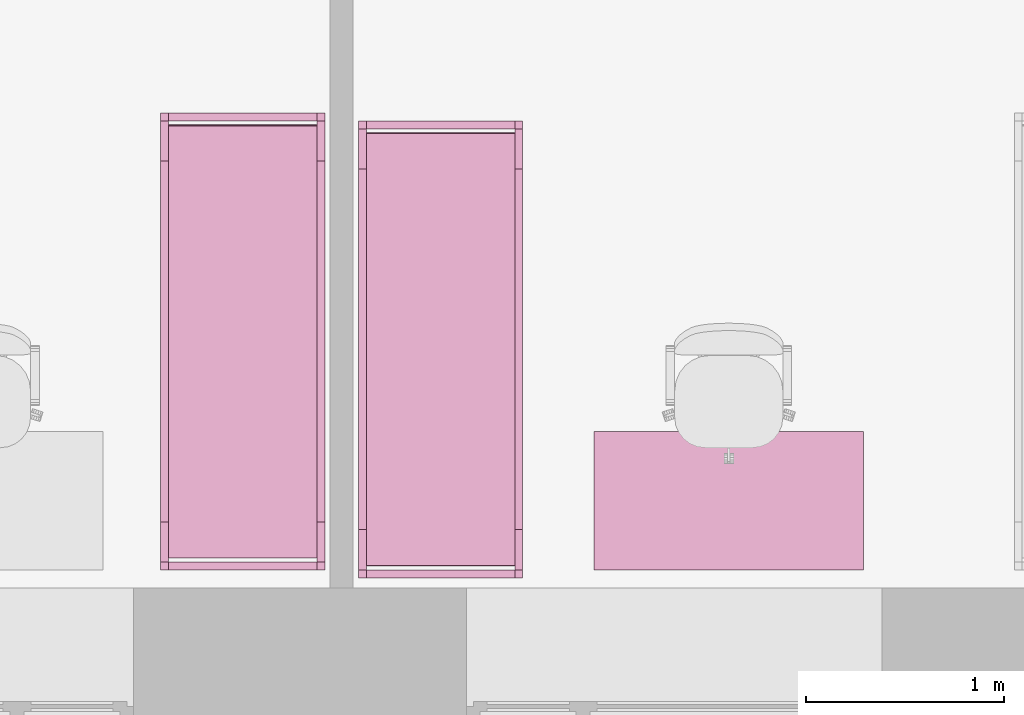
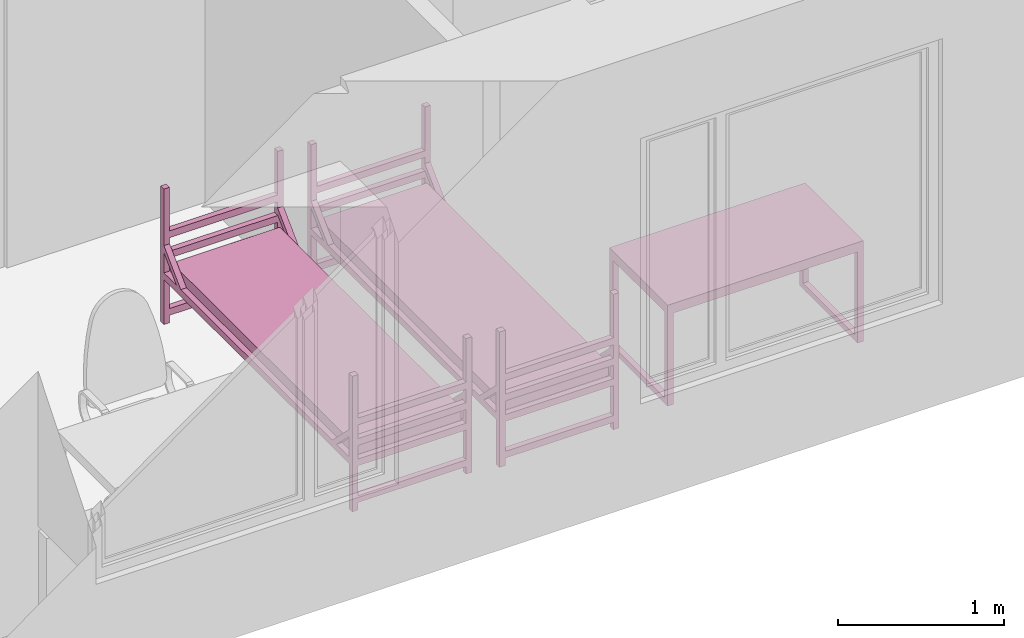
# One storey, part 26 of 48: 3 furnishings.
"""IFC2X3 building model written with IfcOpenShell, lengths in millimetres."""

from ifc_helpers import new_model, entity, si_unit, converted_unit, derived_unit, direction, frame, frame_2d, origin, origin_2d_with_axis, place, context, subcontext, project, spatial, polyline, circle_curve, parameter, trimmed, segment, composite_curve, rectangle, outline, extrude, faceted_brep, source, transform, mapped, material, material_list, type_object, type_shapes, element, save


model = new_model("IFC2X3")

# Units and contexts
model_context = context("Model", 3, precision=0.01, world=origin(), true_north=direction((6.12303176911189e-17, 1.0)))
body_context = subcontext(model_context, "Body", "Model", "MODEL_VIEW")
ifc_project = project(units=[si_unit("LENGTHUNIT", "METRE", prefix="MILLI"), si_unit("AREAUNIT", "SQUARE_METRE"), si_unit("VOLUMEUNIT", "CUBIC_METRE"), converted_unit("PLANEANGLEUNIT", "DEGREE", entity("IfcRatioMeasure", 0.0174532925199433), si_unit("PLANEANGLEUNIT", "RADIAN"), dimensions=[0, 0, 0, 0, 0, 0, 0]), si_unit("MASSUNIT", "GRAM", prefix="KILO"), derived_unit("MASSDENSITYUNIT", [(si_unit("MASSUNIT", "GRAM", prefix="KILO"), 1), (si_unit("LENGTHUNIT", "METRE"), -3)]), si_unit("TIMEUNIT", "SECOND"), si_unit("FREQUENCYUNIT", "HERTZ"), si_unit("THERMODYNAMICTEMPERATUREUNIT", "DEGREE_CELSIUS"), derived_unit("THERMALTRANSMITTANCEUNIT", [(si_unit("MASSUNIT", "GRAM", prefix="KILO"), 1), (si_unit("THERMODYNAMICTEMPERATUREUNIT", "KELVIN"), -1), (si_unit("TIMEUNIT", "SECOND"), -3)]), derived_unit("VOLUMETRICFLOWRATEUNIT", [(si_unit("LENGTHUNIT", "METRE"), 3), (si_unit("TIMEUNIT", "SECOND"), -1)]), si_unit("ELECTRICCURRENTUNIT", "AMPERE"), si_unit("ELECTRICVOLTAGEUNIT", "VOLT"), si_unit("POWERUNIT", "WATT"), si_unit("FORCEUNIT", "NEWTON", prefix="KILO"), si_unit("ILLUMINANCEUNIT", "LUX"), si_unit("LUMINOUSFLUXUNIT", "LUMEN"), si_unit("LUMINOUSINTENSITYUNIT", "CANDELA"), derived_unit("USERDEFINED", [(si_unit("MASSUNIT", "GRAM", prefix="KILO"), -1), (si_unit("LENGTHUNIT", "METRE"), -2), (si_unit("TIMEUNIT", "SECOND"), 3), (si_unit("LUMINOUSFLUXUNIT", "LUMEN"), 1)]), derived_unit("LINEARVELOCITYUNIT", [(si_unit("LENGTHUNIT", "METRE"), 1), (si_unit("TIMEUNIT", "SECOND"), -1)]), si_unit("PRESSUREUNIT", "PASCAL"), derived_unit("USERDEFINED", [(si_unit("LENGTHUNIT", "METRE"), -2), (si_unit("MASSUNIT", "GRAM", prefix="KILO"), 1), (si_unit("TIMEUNIT", "SECOND"), -2)]), derived_unit("LINEARFORCEUNIT", [(si_unit("MASSUNIT", "GRAM", prefix="KILO"), 1), (si_unit("LENGTHUNIT", "METRE"), 1), (si_unit("TIMEUNIT", "SECOND"), -2), (si_unit("LENGTHUNIT", "METRE"), -1)]), derived_unit("PLANARFORCEUNIT", [(si_unit("MASSUNIT", "GRAM", prefix="KILO"), 1), (si_unit("LENGTHUNIT", "METRE"), 1), (si_unit("TIMEUNIT", "SECOND"), -2), (si_unit("LENGTHUNIT", "METRE"), -2)])], contexts=[model_context])

# Site, building, storey, space
site_placement = place(None, origin())
site = spatial("IfcSite", under=ifc_project, at=site_placement, Name="Default", CompositionType="ELEMENT")
building_placement = place(site_placement, origin())
building = spatial("IfcBuilding", under=site, at=building_placement, Name="SMA ARH", CompositionType="ELEMENT")
storey_placement = place(building_placement, frame((0.0, 0.0, 3300.0)))
storey = spatial("IfcBuildingStorey", under=building, at=storey_placement, Name="2 Korrus", CompositionType="ELEMENT", Elevation=3299.99999999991)
space_1_placement = place(storey_placement, origin())
space_1 = spatial("IfcSpace", under=storey, at=space_1_placement, Name="2-12", CompositionType="ELEMENT", InteriorOrExteriorSpace="INTERNAL")

# Furnishings
ifc_material_1 = material(Name="Madrats")
furniture_type_1 = type_object("IfcFurnitureType", Name="Kasarmu voodi ühekordne 2308x830:Kasarmu voodi ühekordne 2308x830", material=ifc_material_1)
shared_shape_1 = source(origin(), body_context, "Body", "SweptSolid", [
    extrude(rectangle(XDim=39.9999999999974, YDim=750.000000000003, at=frame_2d((-1.35003119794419e-13, -2.8421709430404e-14), x_axis=(1.0, 0.0))), frame((1.68638457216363, -1226.7969571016, 55.0), z_axis=(0.0, 0.0, 1.0), x_axis=(0.0, -1.0, 0.0)), (0.0, 0.0, 1.0), 49.9999999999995),
    extrude(rectangle(XDim=39.9999999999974, YDim=750.000000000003, at=frame_2d((-1.35003119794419e-13, -2.8421709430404e-14), x_axis=(1.0, 0.0))), frame((1.68638457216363, -1226.7969571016, 325.0), z_axis=(0.0, 0.0, 1.0), x_axis=(0.0, -1.0, 0.0)), (0.0, 0.0, 1.0), 49.9999999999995),
    extrude(rectangle(XDim=39.9999999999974, YDim=750.000000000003, at=frame_2d((-1.35003119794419e-13, -2.8421709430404e-14), x_axis=(1.0, 0.0))), frame((1.68638457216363, -1226.7969571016, 475.0), z_axis=(0.0, 0.0, 1.0), x_axis=(0.0, -1.0, 0.0)), (0.0, 0.0, 1.0), 49.9999999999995),
    extrude(rectangle(XDim=39.9999999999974, YDim=750.000000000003, at=frame_2d((-1.35003119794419e-13, -2.8421709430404e-14), x_axis=(1.0, 0.0))), frame((1.68638457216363, -1226.7969571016, 625.0), z_axis=(0.0, 0.0, 1.0), x_axis=(0.0, -1.0, 0.0)), (0.0, 0.0, 1.0), 50.0000000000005),
    extrude(rectangle(XDim=39.9999999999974, YDim=750.000000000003, at=frame_2d((1.35003119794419e-13, -2.8421709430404e-14), x_axis=(1.0, 0.0))), frame((1.68638457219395, 1041.2030428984, 55.0), z_axis=(0.0, 0.0, 1.0), x_axis=(0.0, -1.0, 0.0)), (0.0, 0.0, 1.0), 50.0000000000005),
    extrude(rectangle(XDim=39.9999999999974, YDim=750.000000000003, at=frame_2d((1.35003119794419e-13, -2.8421709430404e-14), x_axis=(1.0, 0.0))), frame((1.68638457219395, 1041.2030428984, 325.0), z_axis=(0.0, 0.0, 1.0), x_axis=(0.0, -1.0, 0.0)), (0.0, 0.0, 1.0), 50.0000000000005),
    extrude(rectangle(XDim=39.9999999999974, YDim=750.000000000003, at=frame_2d((1.35003119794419e-13, -2.8421709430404e-14), x_axis=(1.0, 0.0))), frame((1.68638457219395, 1041.2030428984, 475.0), z_axis=(0.0, 0.0, 1.0), x_axis=(0.0, -1.0, 0.0)), (0.0, 0.0, 1.0), 50.0000000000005),
    extrude(rectangle(XDim=39.9999999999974, YDim=750.000000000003, at=frame_2d((1.35003119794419e-13, -2.8421709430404e-14), x_axis=(1.0, 0.0))), frame((1.68638457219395, 1041.2030428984, 625.0), z_axis=(0.0, 0.0, 1.0), x_axis=(0.0, -1.0, 0.0)), (0.0, 0.0, 1.0), 49.9999999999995),
    extrude(outline(composite_curve([segment(trimmed(circle_curve(frame_2d((1085.0, -40.0), x_axis=(1.0, 0.0)), 10.0), [parameter(270.0)], [parameter(0.0)], True, "PARAMETER"), True, "CONTINUOUS"), segment(polyline([(1095.0, -40.0), (1095.0, 40.0)]), True, "CONTINUOUS"), segment(trimmed(circle_curve(frame_2d((1085.0, 40.0), x_axis=(1.0, 0.0)), 10.0), [parameter(0.0)], [parameter(90.0000000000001)], True, "PARAMETER"), True, "CONTINUOUS"), segment(polyline([(1085.0, 50.0), (-1085.0, 50.0)]), True, "CONTINUOUS"), segment(trimmed(circle_curve(frame_2d((-1085.0, 40.0), x_axis=(1.0, 0.0)), 10.0), [parameter(90.0000000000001)], [parameter(180.0)], True, "PARAMETER"), True, "CONTINUOUS"), segment(polyline([(-1095.0, 40.0), (-1095.0, -40.0)]), True, "CONTINUOUS"), segment(trimmed(circle_curve(frame_2d((-1085.0, -40.0), x_axis=(1.0, 0.0)), 10.0), [parameter(180.0)], [parameter(270.0)], True, "PARAMETER"), True, "CONTINUOUS"), segment(polyline([(-1085.0, -50.0), (1085.0, -50.0)]), True, "CONTINUOUS")], self_intersect=False)), frame((-373.313615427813, -92.7969571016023, 405.0), z_axis=(1.0, 0.0, 0.0), x_axis=(0.0, -1.0, 0.0)), (0.0, 0.0, 1.0), 750.000000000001),
    extrude(outline(polyline([(-1114.0, -100.0), (1114.0, -100.0), (1114.0, -50.0), (961.59199141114, -50.0), (1114.0, 100.0), (1114.0, 150.0), (910.789321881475, -50.0), (-910.789321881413, -50.0), (-1114.0, 150.0), (-1114.0, 100.0), (-961.591991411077, -50.0), (-1114.0, -50.0), (-1114.0, -100.0)])), frame((-413.313615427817, -92.7969571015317, 430.0), z_axis=(1.0, 0.0, 0.0), x_axis=(0.0, 1.0, 0.0)), (0.0, 0.0, 1.0), 39.9999999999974),
    extrude(outline(polyline([(-1114.0, -100.0), (1114.0, -100.0), (1114.0, -50.0), (961.591991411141, -50.0), (1114.0, 100.0), (1114.0, 150.0), (910.789321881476, -50.0), (-910.789321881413, -50.0), (-1114.0, 150.0), (-1114.0, 100.0), (-961.591991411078, -50.0), (-1114.0, -50.0), (-1114.0, -100.0)])), frame((376.686384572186, -92.796957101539, 430.0), z_axis=(1.0, 0.0, 0.0), x_axis=(0.0, 1.0, 0.0)), (0.0, 0.0, 1.0), 39.9999999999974),
    extrude(rectangle(XDim=39.9999999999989, YDim=39.9999999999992, at=frame_2d((-6.75015598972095e-14, 0.0), x_axis=(1.0, 0.0))), frame((396.686384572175, -1226.79695710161, 0.0), z_axis=(0.0, 0.0, 1.0), x_axis=(0.0, 1.0, 0.0)), (0.0, 0.0, 1.0), 995.0),
    extrude(rectangle(XDim=39.9999999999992, YDim=39.9999999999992, at=frame_2d((-1.35003119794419e-13, 0.0), x_axis=(1.0, 0.0))), frame((396.686384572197, 1041.20304289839, 0.0), z_axis=(0.0, 0.0, 1.0), x_axis=(0.0, 1.0, 0.0)), (0.0, 0.0, 1.0), 995.0),
    extrude(rectangle(XDim=40.0000000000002, YDim=39.9999999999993, at=frame_2d((-1.35003119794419e-13, 0.0), x_axis=(1.0, 0.0))), frame((-393.313615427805, 1041.2030428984, 0.0), z_axis=(0.0, 0.0, 1.0), x_axis=(0.0, 1.0, 0.0)), (0.0, 0.0, 1.0), 995.0),
    extrude(rectangle(XDim=39.9999999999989, YDim=39.9999999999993, at=frame_2d((-6.75015598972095e-14, 0.0), x_axis=(1.0, 0.0))), frame((-393.313615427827, -1226.7969571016, 0.0), z_axis=(0.0, 0.0, 1.0), x_axis=(0.0, 1.0, 0.0)), (0.0, 0.0, 1.0), 995.0),
])
type_shapes(furniture_type_1, [shared_shape_1])
furnishing_1_placement = place(space_1_placement, frame((12427.8136154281, 1296.79695710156, 0.0)))
element("IfcFurnishingElement", 1, at=furnishing_1_placement, inside=space_1, type_object=furniture_type_1, material=ifc_material_1, Name="Kasarmu voodi ühekordne 2308x830:Kasarmu voodi ühekordne 2308x830", ObjectType="Kasarmu voodi ühekordne 2308x830:Kasarmu voodi ühekordne 2308x830", context=body_context, shape_type="MappedRepresentation", body=[
    mapped(shared_shape_1, transform((0.0, 0.0, 0.0), scale=1.0)),
])
ifc_material_2 = material(Name="<Unnamed>")
ifc_material_list = material_list([ifc_material_2, ifc_material_2])
furniture_type_2 = type_object("IfcFurnitureType", Name="kirjutuslaud 1360x700mm:kirjutuslaud 1360x700mm", material=ifc_material_list)
shared_shape_2 = source(origin(), body_context, "Body", "Brep", [
    faceted_brep([(680.0, -350.0, 720.0), (680.0, 350.0, 720.0), (680.0, 350.0, 750.0), (680.0, -350.0, 750.0), (-680.0, -350.0, 720.0), (-680.0, -350.0, 750.0), (-680.0, 350.0, 750.0), (-680.0, 350.0, 720.0)], [[[0, 1, 2, 3]], [[4, 5, 6, 7]], [[1, 0, 4, 7]], [[2, 1, 7, 6]], [[3, 2, 6, 5]], [[0, 3, 5, 4]]]),
    faceted_brep([(-640.0, -310.0, 680.0), (-640.0, 310.0, 680.0), (-640.0, 310.0, 720.0), (-640.0, -310.0, 720.0), (-680.0, -350.0, 720.0), (-680.0, 350.0, 720.0), (-680.0, 350.0, 10.0), (-680.0, -350.0, 10.0), (-680.0, 310.0, 680.0), (-680.0, -310.0, 680.0), (-680.0, -310.0, 50.0), (-680.0, 310.0, 50.0), (-640.0, -350.0, 10.0), (-640.0, -350.0, 680.0), (640.0, -350.0, 680.0), (640.0, -350.0, 10.0), (680.0, -350.0, 10.0), (680.0, -350.0, 720.0), (-640.0, 350.0, 10.0), (680.0, 350.0, 720.0), (680.0, 350.0, 10.0), (640.0, 350.0, 10.0), (640.0, 350.0, 680.0), (-640.0, 350.0, 680.0), (640.0, 310.0, 720.0), (640.0, -310.0, 720.0), (-640.0, 310.0, 50.0), (-640.0, -310.0, 50.0), (640.0, -310.0, 680.0), (640.0, 310.0, 680.0), (680.0, 310.0, 680.0), (680.0, 310.0, 50.0), (680.0, -310.0, 50.0), (680.0, -310.0, 680.0), (640.0, -310.0, 50.0), (640.0, 310.0, 50.0)], [[[0, 1, 2, 3]], [[4, 5, 6, 7], [8, 9, 10, 11]], [[4, 7, 12, 13, 14, 15, 16, 17]], [[18, 12, 7, 6]], [[6, 5, 19, 20, 21, 22, 23, 18]], [[19, 5, 4, 17], [2, 24, 25, 3]], [[26, 1, 8, 11]], [[27, 26, 11, 10]], [[0, 27, 10, 9]], [[1, 0, 9, 8]], [[14, 13, 0, 28]], [[24, 2, 1, 29]], [[3, 25, 28, 0]], [[17, 16, 20, 19], [30, 31, 32, 33]], [[21, 15, 14, 28, 34, 35, 29, 22]], [[20, 16, 15, 21]], [[31, 30, 29, 35]], [[32, 31, 35, 34]], [[33, 32, 34, 28]], [[30, 33, 28, 29]], [[29, 28, 25, 24]], [[29, 1, 23, 22]], [[12, 18, 23, 1, 26, 27, 0, 13]]]),
    faceted_brep([(-663.729456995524, -270.466136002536, 0.0), (-659.847171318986, -269.955023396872, 0.0), (-655.964885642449, -270.466136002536, 0.0), (-652.347171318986, -271.964642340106, 0.0), (-649.240569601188, -274.348421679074, 0.0), (-646.85679026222, -277.455023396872, 0.0), (-645.35828392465, -281.072737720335, 0.0), (-644.847171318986, -284.955023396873, 0.0), (-645.35828392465, -288.83730907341, 0.0), (-646.85679026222, -292.455023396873, 0.0), (-649.240569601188, -295.561625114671, 0.0), (-652.347171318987, -297.945404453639, 0.0), (-655.964885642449, -299.443910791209, 0.0), (-659.847171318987, -299.955023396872, 0.0), (-663.729456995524, -299.443910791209, 0.0), (-667.347171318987, -297.945404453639, 0.0), (-670.453773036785, -295.561625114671, 0.0), (-672.837552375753, -292.455023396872, 0.0), (-674.336058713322, -288.83730907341, 0.0), (-674.847171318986, -284.955023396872, 0.0), (-674.336058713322, -281.072737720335, 0.0), (-672.837552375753, -277.455023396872, 0.0), (-670.453773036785, -274.348421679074, 0.0), (-667.347171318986, -271.964642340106, 0.0), (-655.964885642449, -299.443910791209, 10.0), (-652.347171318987, -297.945404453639, 10.0), (-649.240569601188, -295.561625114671, 10.0), (-646.85679026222, -292.455023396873, 10.0), (-645.35828392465, -288.83730907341, 10.0), (-644.847171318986, -284.955023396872, 10.0), (-645.35828392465, -281.072737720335, 10.0), (-646.85679026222, -277.455023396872, 10.0), (-649.240569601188, -274.348421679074, 10.0), (-652.347171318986, -271.964642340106, 10.0), (-655.964885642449, -270.466136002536, 10.0), (-659.847171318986, -269.955023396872, 10.0), (-663.729456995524, -270.466136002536, 10.0), (-667.347171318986, -271.964642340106, 10.0), (-670.453773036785, -274.348421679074, 10.0), (-672.837552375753, -277.455023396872, 10.0), (-674.336058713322, -281.072737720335, 10.0), (-674.847171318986, -284.955023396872, 10.0), (-674.336058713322, -288.83730907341, 10.0), (-672.837552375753, -292.455023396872, 10.0), (-670.453773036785, -295.561625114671, 10.0), (-667.347171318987, -297.945404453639, 10.0), (-663.729456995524, -299.443910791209, 10.0), (-659.847171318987, -299.955023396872, 10.0)], [[[0, 1, 2, 3, 4, 5, 6, 7, 8, 9, 10, 11, 12, 13, 14, 15, 16, 17, 18, 19, 20, 21, 22, 23]], [[24, 25, 26, 27, 28, 29, 30, 31, 32, 33, 34, 35, 36, 37, 38, 39, 40, 41, 42, 43, 44, 45, 46, 47]], [[18, 42, 41, 19]], [[17, 43, 42, 18]], [[45, 44, 16, 15]], [[17, 16, 44, 43]], [[46, 45, 15, 14]], [[47, 46, 14, 13]], [[12, 24, 47, 13]], [[11, 25, 24, 12]], [[27, 26, 10, 9]], [[11, 10, 26, 25]], [[28, 27, 9, 8]], [[29, 28, 8, 7]], [[6, 30, 29, 7]], [[5, 31, 30, 6]], [[33, 32, 4, 3]], [[5, 4, 32, 31]], [[34, 33, 3, 2]], [[35, 34, 2, 1]], [[0, 36, 35, 1]], [[23, 37, 36, 0]], [[39, 38, 22, 21]], [[23, 22, 38, 37]], [[40, 39, 21, 20]], [[41, 40, 20, 19]]]),
    faceted_brep([(-655.964885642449, 270.466136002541, 10.0), (-652.347171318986, 271.964642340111, 10.0), (-649.240569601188, 274.348421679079, 10.0), (-646.85679026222, 277.455023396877, 10.0), (-645.35828392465, 281.07273772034, 10.0), (-644.847171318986, 284.955023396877, 10.0), (-645.35828392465, 288.837309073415, 10.0), (-646.85679026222, 292.455023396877, 10.0), (-649.240569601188, 295.561625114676, 10.0), (-652.347171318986, 297.945404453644, 10.0), (-655.964885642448, 299.443910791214, 10.0), (-659.847171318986, 299.955023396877, 10.0), (-663.729456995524, 299.443910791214, 10.0), (-667.347171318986, 297.945404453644, 10.0), (-670.453773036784, 295.561625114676, 10.0), (-672.837552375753, 292.455023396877, 10.0), (-674.336058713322, 288.837309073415, 10.0), (-674.847171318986, 284.955023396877, 10.0), (-674.336058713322, 281.07273772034, 10.0), (-672.837552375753, 277.455023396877, 10.0), (-670.453773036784, 274.348421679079, 10.0), (-667.347171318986, 271.964642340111, 10.0), (-663.729456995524, 270.466136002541, 10.0), (-659.847171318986, 269.955023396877, 10.0), (-655.964885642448, 299.443910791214, 0.0), (-652.347171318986, 297.945404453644, 0.0), (-649.240569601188, 295.561625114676, 0.0), (-646.85679026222, 292.455023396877, 0.0), (-645.35828392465, 288.837309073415, 0.0), (-644.847171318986, 284.955023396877, 0.0), (-645.35828392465, 281.07273772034, 0.0), (-646.85679026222, 277.455023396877, 0.0), (-649.240569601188, 274.348421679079, 0.0), (-652.347171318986, 271.964642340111, 0.0), (-655.964885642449, 270.466136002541, 0.0), (-659.847171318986, 269.955023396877, 0.0), (-663.729456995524, 270.466136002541, 0.0), (-667.347171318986, 271.964642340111, 0.0), (-670.453773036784, 274.348421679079, 0.0), (-672.837552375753, 277.455023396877, 0.0), (-674.336058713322, 281.07273772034, 0.0), (-674.847171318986, 284.955023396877, 0.0), (-674.336058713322, 288.837309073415, 0.0), (-672.837552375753, 292.455023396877, 0.0), (-670.453773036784, 295.561625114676, 0.0), (-667.347171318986, 297.945404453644, 0.0), (-663.729456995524, 299.443910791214, 0.0), (-659.847171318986, 299.955023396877, 0.0)], [[[0, 1, 2, 3, 4, 5, 6, 7, 8, 9, 10, 11, 12, 13, 14, 15, 16, 17, 18, 19, 20, 21, 22, 23]], [[24, 25, 26, 27, 28, 29, 30, 31, 32, 33, 34, 35, 36, 37, 38, 39, 40, 41, 42, 43, 44, 45, 46, 47]], [[40, 18, 17, 41]], [[39, 19, 18, 40]], [[21, 20, 38, 37]], [[39, 38, 20, 19]], [[22, 21, 37, 36]], [[23, 22, 36, 35]], [[34, 0, 23, 35]], [[33, 1, 0, 34]], [[3, 2, 32, 31]], [[33, 32, 2, 1]], [[4, 3, 31, 30]], [[5, 4, 30, 29]], [[28, 6, 5, 29]], [[27, 7, 6, 28]], [[9, 8, 26, 25]], [[27, 26, 8, 7]], [[10, 9, 25, 24]], [[11, 10, 24, 47]], [[46, 12, 11, 47]], [[45, 13, 12, 46]], [[15, 14, 44, 43]], [[45, 44, 14, 13]], [[16, 15, 43, 42]], [[17, 16, 42, 41]]]),
    faceted_brep([(656.270543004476, -270.466136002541, 0.0), (660.152828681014, -269.955023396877, 0.0), (664.035114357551, -270.466136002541, 0.0), (667.652828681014, -271.96464234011, 0.0), (670.759430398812, -274.348421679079, 0.0), (673.14320973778, -277.455023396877, 0.0), (674.64171607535, -281.072737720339, 0.0), (675.152828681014, -284.955023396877, 0.0), (674.64171607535, -288.837309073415, 0.0), (673.14320973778, -292.455023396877, 0.0), (670.759430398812, -295.561625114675, 0.0), (667.652828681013, -297.945404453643, 0.0), (664.035114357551, -299.443910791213, 0.0), (660.152828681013, -299.955023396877, 0.0), (656.270543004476, -299.443910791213, 0.0), (652.652828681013, -297.945404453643, 0.0), (649.546226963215, -295.561625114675, 0.0), (647.162447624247, -292.455023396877, 0.0), (645.663941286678, -288.837309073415, 0.0), (645.152828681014, -284.955023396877, 0.0), (645.663941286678, -281.072737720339, 0.0), (647.162447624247, -277.455023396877, 0.0), (649.546226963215, -274.348421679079, 0.0), (652.652828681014, -271.96464234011, 0.0), (664.035114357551, -299.443910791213, 10.0), (667.652828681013, -297.945404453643, 10.0), (670.759430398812, -295.561625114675, 10.0), (673.14320973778, -292.455023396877, 10.0), (674.64171607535, -288.837309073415, 10.0), (675.152828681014, -284.955023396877, 10.0), (674.64171607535, -281.072737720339, 10.0), (673.14320973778, -277.455023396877, 10.0), (670.759430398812, -274.348421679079, 10.0), (667.652828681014, -271.96464234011, 10.0), (664.035114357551, -270.466136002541, 10.0), (660.152828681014, -269.955023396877, 10.0), (656.270543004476, -270.466136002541, 10.0), (652.652828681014, -271.96464234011, 10.0), (649.546226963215, -274.348421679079, 10.0), (647.162447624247, -277.455023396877, 10.0), (645.663941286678, -281.072737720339, 10.0), (645.152828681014, -284.955023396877, 10.0), (645.663941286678, -288.837309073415, 10.0), (647.162447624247, -292.455023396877, 10.0), (649.546226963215, -295.561625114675, 10.0), (652.652828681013, -297.945404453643, 10.0), (656.270543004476, -299.443910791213, 10.0), (660.152828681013, -299.955023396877, 10.0)], [[[0, 1, 2, 3, 4, 5, 6, 7, 8, 9, 10, 11, 12, 13, 14, 15, 16, 17, 18, 19, 20, 21, 22, 23]], [[24, 25, 26, 27, 28, 29, 30, 31, 32, 33, 34, 35, 36, 37, 38, 39, 40, 41, 42, 43, 44, 45, 46, 47]], [[18, 42, 41, 19]], [[17, 43, 42, 18]], [[45, 44, 16, 15]], [[17, 16, 44, 43]], [[46, 45, 15, 14]], [[47, 46, 14, 13]], [[12, 24, 47, 13]], [[11, 25, 24, 12]], [[27, 26, 10, 9]], [[11, 10, 26, 25]], [[28, 27, 9, 8]], [[29, 28, 8, 7]], [[6, 30, 29, 7]], [[5, 31, 30, 6]], [[33, 32, 4, 3]], [[5, 4, 32, 31]], [[34, 33, 3, 2]], [[35, 34, 2, 1]], [[0, 36, 35, 1]], [[23, 37, 36, 0]], [[39, 38, 22, 21]], [[23, 22, 38, 37]], [[40, 39, 21, 20]], [[41, 40, 20, 19]]]),
    faceted_brep([(664.035114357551, 270.466136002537, 10.0), (667.652828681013, 271.964642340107, 10.0), (670.759430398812, 274.348421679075, 10.0), (673.14320973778, 277.455023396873, 10.0), (674.64171607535, 281.072737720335, 10.0), (675.152828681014, 284.955023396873, 10.0), (674.64171607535, 288.837309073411, 10.0), (673.14320973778, 292.455023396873, 10.0), (670.759430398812, 295.561625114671, 10.0), (667.652828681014, 297.94540445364, 10.0), (664.035114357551, 299.443910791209, 10.0), (660.152828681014, 299.955023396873, 10.0), (656.270543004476, 299.443910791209, 10.0), (652.652828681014, 297.94540445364, 10.0), (649.546226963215, 295.561625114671, 10.0), (647.162447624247, 292.455023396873, 10.0), (645.663941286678, 288.837309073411, 10.0), (645.152828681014, 284.955023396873, 10.0), (645.663941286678, 281.072737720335, 10.0), (647.162447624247, 277.455023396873, 10.0), (649.546226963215, 274.348421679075, 10.0), (652.652828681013, 271.964642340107, 10.0), (656.270543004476, 270.466136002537, 10.0), (660.152828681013, 269.955023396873, 10.0), (664.035114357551, 299.443910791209, 0.0), (667.652828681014, 297.94540445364, 0.0), (670.759430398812, 295.561625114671, 0.0), (673.14320973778, 292.455023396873, 0.0), (674.64171607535, 288.837309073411, 0.0), (675.152828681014, 284.955023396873, 0.0), (674.64171607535, 281.072737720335, 0.0), (673.14320973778, 277.455023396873, 0.0), (670.759430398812, 274.348421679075, 0.0), (667.652828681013, 271.964642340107, 0.0), (664.035114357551, 270.466136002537, 0.0), (660.152828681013, 269.955023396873, 0.0), (656.270543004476, 270.466136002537, 0.0), (652.652828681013, 271.964642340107, 0.0), (649.546226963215, 274.348421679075, 0.0), (647.162447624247, 277.455023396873, 0.0), (645.663941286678, 281.072737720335, 0.0), (645.152828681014, 284.955023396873, 0.0), (645.663941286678, 288.837309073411, 0.0), (647.162447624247, 292.455023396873, 0.0), (649.546226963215, 295.561625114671, 0.0), (652.652828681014, 297.94540445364, 0.0), (656.270543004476, 299.443910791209, 0.0), (660.152828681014, 299.955023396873, 0.0)], [[[0, 1, 2, 3, 4, 5, 6, 7, 8, 9, 10, 11, 12, 13, 14, 15, 16, 17, 18, 19, 20, 21, 22, 23]], [[24, 25, 26, 27, 28, 29, 30, 31, 32, 33, 34, 35, 36, 37, 38, 39, 40, 41, 42, 43, 44, 45, 46, 47]], [[40, 18, 17, 41]], [[39, 19, 18, 40]], [[21, 20, 38, 37]], [[39, 38, 20, 19]], [[22, 21, 37, 36]], [[23, 22, 36, 35]], [[34, 0, 23, 35]], [[33, 1, 0, 34]], [[3, 2, 32, 31]], [[33, 32, 2, 1]], [[4, 3, 31, 30]], [[5, 4, 30, 29]], [[28, 6, 5, 29]], [[27, 7, 6, 28]], [[9, 8, 26, 25]], [[27, 26, 8, 7]], [[10, 9, 25, 24]], [[11, 10, 24, 47]], [[46, 12, 11, 47]], [[45, 13, 12, 46]], [[15, 14, 44, 43]], [[45, 44, 14, 13]], [[16, 15, 43, 42]], [[17, 16, 42, 41]]]),
])
type_shapes(furniture_type_2, [shared_shape_2])
furnishing_2_placement = place(space_1_placement, frame((13885.5000000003, 440.0, 0.0)))
element("IfcFurnishingElement", 2, at=furnishing_2_placement, inside=space_1, type_object=furniture_type_2, Name="kirjutuslaud 1360x700mm:kirjutuslaud 1360x700mm", ObjectType="kirjutuslaud 1360x700mm:kirjutuslaud 1360x700mm", context=body_context, shape_type="MappedRepresentation", body=[
    mapped(shared_shape_2, transform((0.0, 0.0, 0.0), scale=1.0)),
])

# Space
space_2_placement = place(storey_placement, origin())
space_2 = spatial("IfcSpace", under=storey, at=space_2_placement, Name="2-13", CompositionType="ELEMENT", InteriorOrExteriorSpace="INTERNAL")

# Furnishing
furniture_type_3 = type_object("IfcFurnitureType", Name="Kasarmu voodi ühekordne 2308x830:Kasarmu voodi ühekordne 2308x830", material=ifc_material_1)
shared_shape_3 = source(origin(), body_context, "Body", "SweptSolid", [
    extrude(rectangle(XDim=750.000000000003, YDim=39.9999999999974, at=frame_2d((0.0, 1.35003119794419e-13), x_axis=(1.0, 0.0))), frame((1.68638457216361, 1226.7969571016, 55.0)), (0.0, 0.0, 1.0), 49.9999999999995),
    extrude(rectangle(XDim=750.000000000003, YDim=39.9999999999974, at=frame_2d((0.0, 1.35003119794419e-13), x_axis=(1.0, 0.0))), frame((1.68638457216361, 1226.7969571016, 325.0)), (0.0, 0.0, 1.0), 49.9999999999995),
    extrude(rectangle(XDim=750.000000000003, YDim=39.9999999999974, at=frame_2d((0.0, 1.35003119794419e-13), x_axis=(1.0, 0.0))), frame((1.68638457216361, 1226.7969571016, 475.0)), (0.0, 0.0, 1.0), 49.9999999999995),
    extrude(rectangle(XDim=750.000000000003, YDim=39.9999999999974, at=frame_2d((0.0, 1.35003119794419e-13), x_axis=(1.0, 0.0))), frame((1.68638457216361, 1226.7969571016, 625.0)), (0.0, 0.0, 1.0), 50.0000000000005),
    extrude(rectangle(XDim=750.000000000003, YDim=39.9999999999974, at=origin_2d_with_axis()), frame((1.68638457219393, -1041.2030428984, 55.0)), (0.0, 0.0, 1.0), 50.0000000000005),
    extrude(rectangle(XDim=750.000000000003, YDim=39.9999999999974, at=origin_2d_with_axis()), frame((1.68638457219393, -1041.2030428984, 325.0)), (0.0, 0.0, 1.0), 50.0000000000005),
    extrude(rectangle(XDim=750.000000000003, YDim=39.9999999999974, at=origin_2d_with_axis()), frame((1.68638457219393, -1041.2030428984, 475.0)), (0.0, 0.0, 1.0), 50.0000000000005),
    extrude(rectangle(XDim=750.000000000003, YDim=39.9999999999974, at=origin_2d_with_axis()), frame((1.68638457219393, -1041.2030428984, 625.0)), (0.0, 0.0, 1.0), 49.9999999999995),
    extrude(outline(composite_curve([segment(polyline([(-1085.0, -50.0), (1085.0, -50.0)]), True, "CONTINUOUS"), segment(trimmed(circle_curve(frame_2d((1085.0, -40.0), x_axis=(-1.0, 0.0)), 10.0), [parameter(90.0000000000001)], [parameter(180.0)], True, "PARAMETER"), True, "CONTINUOUS"), segment(polyline([(1095.0, -40.0), (1095.0, 40.0)]), True, "CONTINUOUS"), segment(trimmed(circle_curve(frame_2d((1085.0, 40.0), x_axis=(-1.0, 0.0)), 10.0), [parameter(180.0)], [parameter(270.0)], True, "PARAMETER"), True, "CONTINUOUS"), segment(polyline([(1085.0, 50.0), (-1085.0, 50.0)]), True, "CONTINUOUS"), segment(trimmed(circle_curve(frame_2d((-1085.0, 40.0), x_axis=(-1.0, 0.0)), 10.0), [parameter(270.0)], [parameter(0.0)], True, "PARAMETER"), True, "CONTINUOUS"), segment(polyline([(-1095.0, 40.0), (-1095.0, -40.0)]), True, "CONTINUOUS"), segment(trimmed(circle_curve(frame_2d((-1085.0, -40.0), x_axis=(-1.0, 0.0)), 10.0), [parameter(0.0)], [parameter(90.0000000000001)], True, "PARAMETER"), True, "CONTINUOUS")], self_intersect=False)), frame((-373.313615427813, 92.7969571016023, 405.0), z_axis=(1.0, 0.0, 0.0), x_axis=(0.0, -1.0, 0.0)), (0.0, 0.0, 1.0), 750.000000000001),
    extrude(outline(polyline([(-100.0, -1114.0), (-50.0, -1114.0), (-50.0, -961.591991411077), (100.0, -1114.0), (150.0, -1114.0), (-50.0, -910.789321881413), (-50.0, 910.789321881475), (150.0, 1114.0), (100.0, 1114.0), (-50.0, 961.591991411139), (-50.0, 1114.0), (-100.0, 1114.0), (-100.0, -1114.0)])), frame((-413.313615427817, 92.7969571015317, 430.0), z_axis=(1.0, 0.0, 0.0), x_axis=(0.0, 0.0, 1.0)), (0.0, 0.0, 1.0), 39.9999999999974),
    extrude(outline(polyline([(-100.0, -1114.0), (-50.0, -1114.0), (-50.0, -961.591991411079), (100.0, -1114.0), (150.0, -1114.0), (-50.0, -910.789321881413), (-50.0, 910.789321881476), (150.0, 1114.0), (100.0, 1114.0), (-50.0, 961.591991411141), (-50.0, 1114.0), (-100.0, 1114.0), (-100.0, -1114.0)])), frame((376.686384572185, 92.796957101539, 430.0), z_axis=(1.0, 0.0, 0.0), x_axis=(0.0, 0.0, 1.0)), (0.0, 0.0, 1.0), 39.9999999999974),
    extrude(rectangle(XDim=39.9999999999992, YDim=39.9999999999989, at=frame_2d((0.0, -6.75015598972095e-14), x_axis=(1.0, 0.0))), frame((396.686384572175, 1226.79695710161, 0.0), z_axis=(0.0, 0.0, 1.0), x_axis=(-1.0, 0.0, 0.0)), (0.0, 0.0, 1.0), 995.0),
    extrude(rectangle(XDim=39.9999999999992, YDim=39.9999999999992, at=origin_2d_with_axis()), frame((396.686384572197, -1041.20304289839, 0.0), z_axis=(0.0, 0.0, 1.0), x_axis=(-1.0, 0.0, 0.0)), (0.0, 0.0, 1.0), 995.0),
    extrude(rectangle(XDim=39.9999999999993, YDim=40.0000000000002, at=origin_2d_with_axis()), frame((-393.313615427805, -1041.2030428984, 0.0), z_axis=(0.0, 0.0, 1.0), x_axis=(-1.0, 0.0, 0.0)), (0.0, 0.0, 1.0), 995.0),
    extrude(rectangle(XDim=39.9999999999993, YDim=39.9999999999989, at=frame_2d((0.0, -6.75015598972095e-14), x_axis=(1.0, 0.0))), frame((-393.313615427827, 1226.7969571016, 0.0), z_axis=(0.0, 0.0, 1.0), x_axis=(-1.0, 0.0, 0.0)), (0.0, 0.0, 1.0), 995.0),
])
type_shapes(furniture_type_3, [shared_shape_3])
furnishing_3_placement = place(space_2_placement, frame((11432.1863845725, 1336.79695710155, 0.0), z_axis=(0.0, 0.0, 1.0), x_axis=(-1.0, 0.0, 0.0)))
element("IfcFurnishingElement", 3, at=furnishing_3_placement, inside=space_2, type_object=furniture_type_3, material=ifc_material_1, Name="Kasarmu voodi ühekordne 2308x830:Kasarmu voodi ühekordne 2308x830", ObjectType="Kasarmu voodi ühekordne 2308x830:Kasarmu voodi ühekordne 2308x830", context=body_context, shape_type="MappedRepresentation", body=[
    mapped(shared_shape_3, transform((0.0, 0.0, 0.0), scale=1.0)),
])

save(model, "model.ifc")
